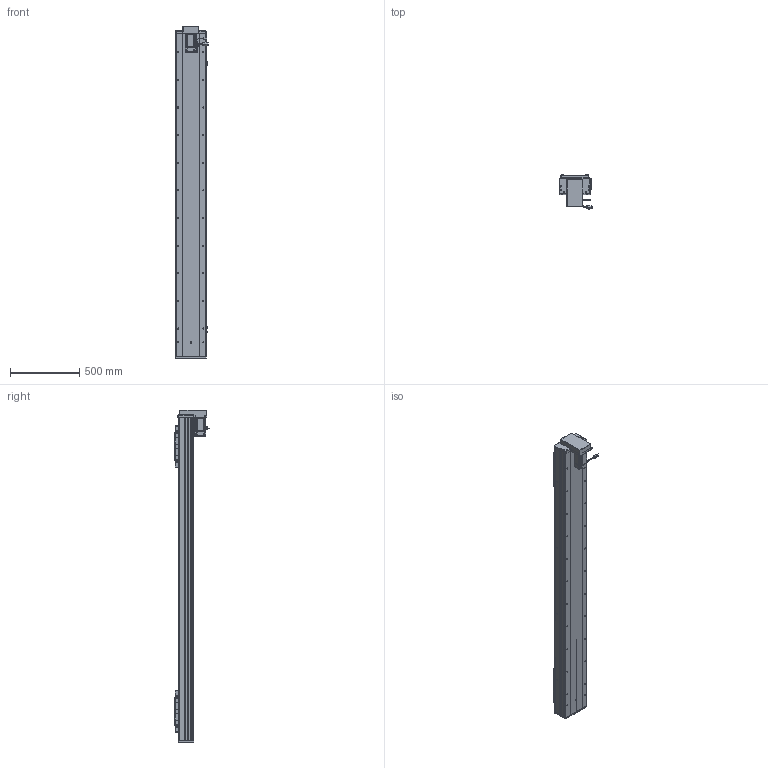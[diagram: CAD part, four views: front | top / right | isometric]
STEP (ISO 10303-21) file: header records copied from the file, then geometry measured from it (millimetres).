
FILE_DESCRIPTION (( 'STEP AP203' ), '1' );
FILE_NAME ('RY220F-L2525-800-BK-邧嶺.SLDASM_1900.step', '2022-08-06T08:08:36', ( '' ), ( '' ), 'SwSTEP 2.0', 'SolidWorks 2016', '' );
FILE_SCHEMA (( 'CONFIG_CONTROL_DESIGN' ));
Length unit declared in the file: millimetre
Products named in the file (15): RY220狟殏萇儂假蚾啣; RY220F-滅鳥奻裔; RY220F蛌殏菁釱-800-邧嶺_1900; 侐源滅袉蝶; 怢湛750W_ECMA-CX0807ES; RY220F綴裔啣; RY220狟殏萇儂欶; 覜茼ん672; RY220F-祥凄詩湍-蛌殏-800_1900; RY220F-蛌殏奻裔啣-800_1900; RY220F-L2525-800-BK-邧嶺.SLDASM_1900; RY220F-672覜茼んえ; RY220F-詩湍揤踡輸; 滅袉蝶18-24; RY220F臏賑釱25-32佪裝
Assembly tree (24 placements, depth 2):
  RY220F-L2525-800-BK-邧嶺.SLDASM_1900
    RY220F蛌殏菁釱-800-邧嶺_1900
    RY220F-蛌殏奻裔啣-800_1900  x2
    怢湛750W_ECMA-CX0807ES
    RY220F臏賑釱25-32佪裝  x2
    RY220F-滅鳥奻裔  x2
    滅袉蝶18-24  x3
    RY220F綴裔啣
    RY220F-祥凄詩湍-蛌殏-800_1900
    RY220F-詩湍揤踡輸  x2
    覜茼ん672  x3
    RY220F-672覜茼んえ  x2
    侐源滅袉蝶  x2
    RY220狟殏萇儂假蚾啣
    RY220狟殏萇儂欶
Bounding box: 237.27 x 247.24 x 2403 mm (x, y, z)
Volume: 20539001.8 mm3; surface area: 5423082.5 mm2
Topology: 25 solids, 25 shells, 2911 faces, 7890 edges, 4847 vertices
Faces by surface type: cylinder 1310, plane 1062, cone 468, bspline 45, sphere 16, torus 10
Entity records: 72521 total; most frequent: CARTESIAN_POINT 19289, ORIENTED_EDGE 10714, DIRECTION 10545, EDGE_CURVE 5357, AXIS2_PLACEMENT_3D 3770, VERTEX_POINT 3463, LINE 3005, VECTOR 3005
